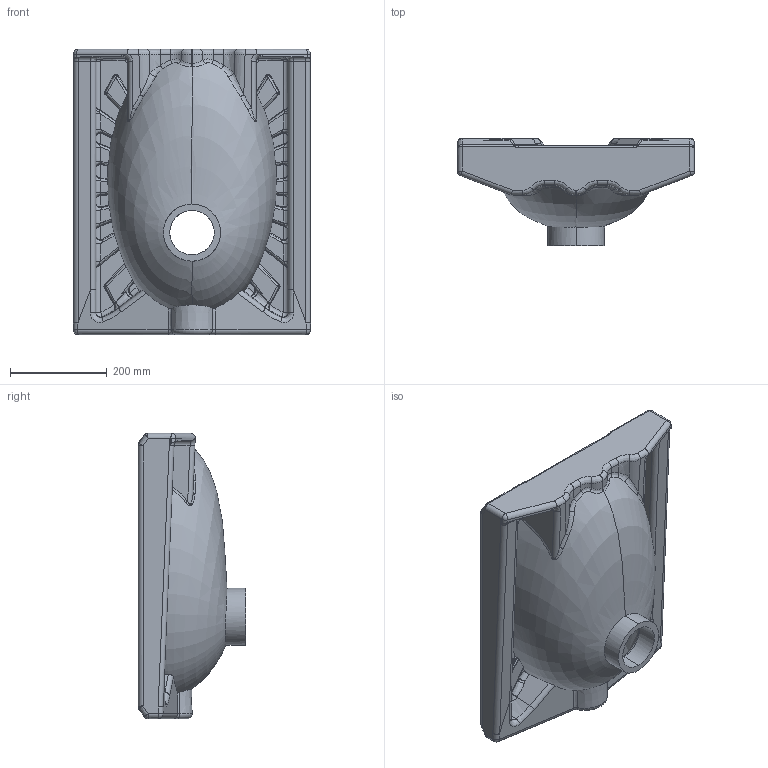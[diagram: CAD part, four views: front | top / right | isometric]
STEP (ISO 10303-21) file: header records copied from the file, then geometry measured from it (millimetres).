
FILE_DESCRIPTION (( 'STEP AP203' ), '1' );
FILE_NAME ('tp590.STEP', '2022-04-25T12:02:25', ( '' ), ( '' ), 'SwSTEP 2.0', 'SolidWorks 2021', '' );
FILE_SCHEMA (( 'CONFIG_CONTROL_DESIGN' ));
Products named in the file (1): tp590
Bounding box: 490 x 222 x 590 mm (x, y, z)
Volume: 10396092.2 mm3; surface area: 1152984.7 mm2
Topology: 1 solids, 1 shells, 996 faces, 2429 edges, 1324 vertices
Faces by surface type: bspline 645, cylinder 154, plane 103, sphere 80, torus 11, cone 3
Entity records: 89057 total; most frequent: CARTESIAN_POINT 71365, ORIENTED_EDGE 4634, DIRECTION 2388, EDGE_CURVE 2317, VERTEX_POINT 1324, B_SPLINE_CURVE_WITH_KNOTS 1233, AXIS2_PLACEMENT_3D 1058, EDGE_LOOP 999
